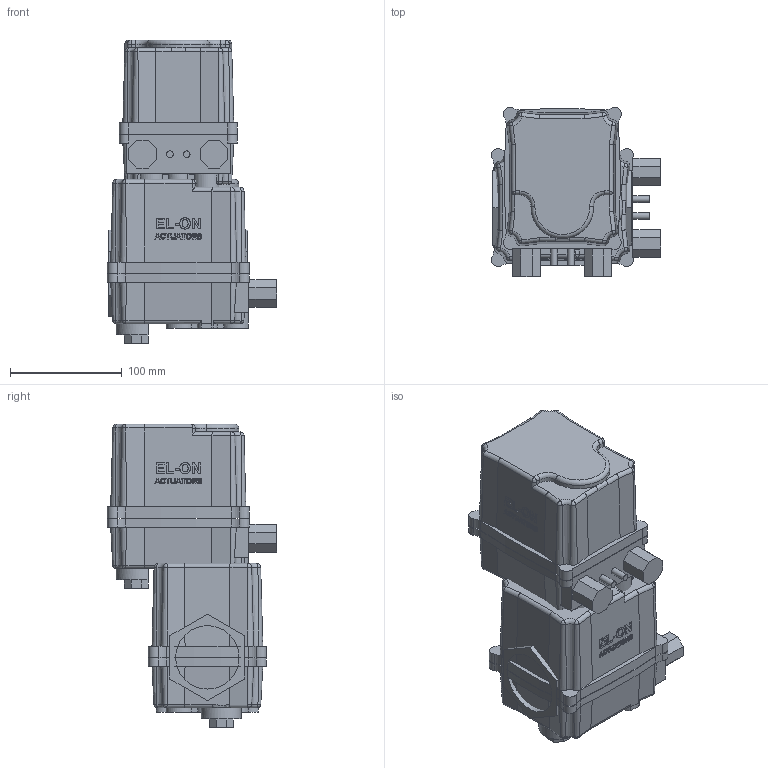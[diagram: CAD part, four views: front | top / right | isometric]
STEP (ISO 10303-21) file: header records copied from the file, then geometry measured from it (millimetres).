
FILE_DESCRIPTION( ( 'Unknown' ), '1' );
FILE_NAME( 'J:/Muud/ROOTSI BPS 3D vidinad/Kuulkraanid/Roostevaba kuulkraanid/Ball valve BPS 2411/Ball valve with electric actuator BPS/STEP formaat/BPS 2411050E ball valve DN50.stp', 'Unknown', ( 'Unknown' ), ( 'Unknown' ), 'PSStep 10.1', 'Unknown', ' ' );
FILE_SCHEMA( ( 'AUTOMOTIVE_DESIGN { 1 0 10303 214 1 1 1 1 }' ) );
Length unit declared in the file: millimetre
Products named in the file (4): Assem1; BPS 2411050 ball valve DN50; BPS 8005058 electric actuator DN40-100
Bounding box: 151.5 x 151.5 x 271.5 mm (x, y, z)
Volume: 3879298.9 mm3; surface area: 382666 mm2
Topology: 6 solids, 6 shells, 1114 faces, 2888 edges, 1872 vertices
Faces by surface type: plane 432, cylinder 262, extrusion 190, bspline 122, cone 82, torus 26
Full cylindrical faces by diameter (mm): 4.134 x16, 4.917 x8, 6 x4, 6.647 x8, 33 x2, 42 x2, 50 x2, 56.656 x4, 90 x2
Entity records: 30961 total; most frequent: CARTESIAN_POINT 14216, ORIENTED_EDGE 2654, DIRECTION 2064, EDGE_CURVE 1327, VERTEX_POINT 904, VECTOR 708, AXIS2_PLACEMENT_3D 678, EDGE_LOOP 675
